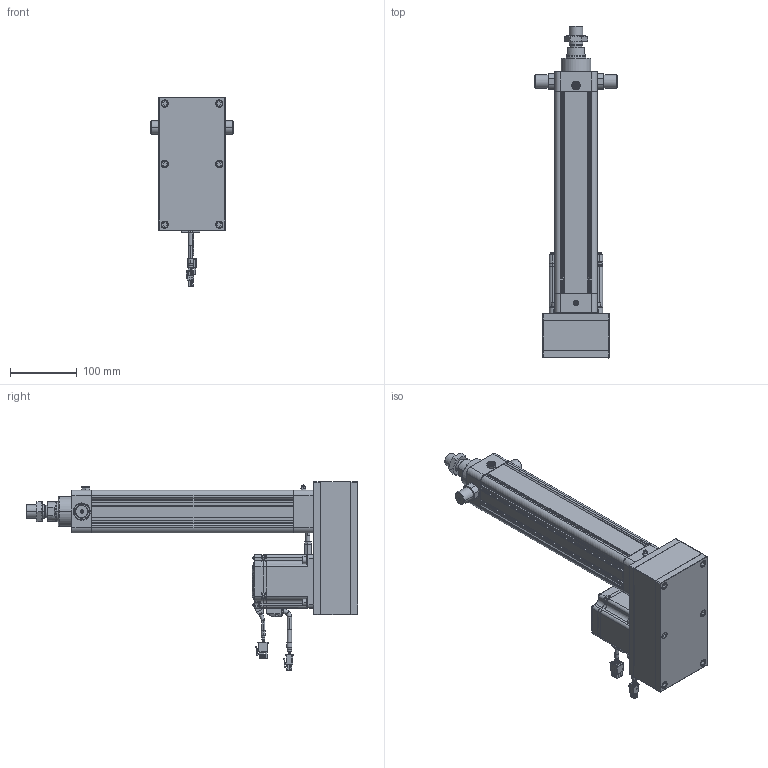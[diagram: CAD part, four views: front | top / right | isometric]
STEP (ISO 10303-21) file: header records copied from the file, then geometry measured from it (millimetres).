
FILE_DESCRIPTION((''),'2;1');
FILE_NAME('HE50-D-100-X1_ASM','2020-05-23T',('ASUS20200'),(''),'CREO PARAMETRIC BY PTC INC, 2014190','CREO PARAMETRIC BY PTC INC, 2014190','');
FILE_SCHEMA(('CONFIG_CONTROL_DESIGN'));
Products named in the file (30): HE50-D-P-001-X1; HE50-D-P-002-X1; HE50-D-P-003-X1; 6301ZZ; LGLM-M8-22; SLM-01; YZ-M6X1; HE50-P-010-X1-400W; _MHMF082L1A2; _CABLE_MOTOR_BOTTOM_05; _CABLE_MOTOR_TOP_05; _MOTOR_CONNECTOR_2; _CABLE_BRAKE_BOTTOM_05; _CABLE_BRAKE_TOP_05; _MHMF_CONNECTOR_9_PIN_A6; MHMF082L1A2M2_1_ASM; TD-6; M6X25; LM-M6X1; JX6X6X20; M6X25-DS; LM-M6-15; HE50-P-012-X1; HE50-P-013-X1; M6X60; HE50-TC; HE50-D-P-005-X1; HE50-D-P-004-X1; HE50-D-P-008-X1; HE50-D-100-X1_ASM
Assembly tree (52 placements, depth 3):
  HE50-D-100-X1_ASM
    HE50-D-P-001-X1
    HE50-D-P-002-X1
    HE50-D-P-003-X1
    6301ZZ
    LGLM-M8-22  x8
    SLM-01
    YZ-M6X1
    HE50-P-010-X1-400W
    MHMF082L1A2M2_1_ASM
      _MHMF082L1A2
      _CABLE_MOTOR_BOTTOM_05
      _CABLE_MOTOR_TOP_05
      _MOTOR_CONNECTOR_2
      _CABLE_BRAKE_BOTTOM_05
      _CABLE_BRAKE_TOP_05
      _MHMF_CONNECTOR_9_PIN_A6
    TD-6  x4
    M6X25  x4
    LM-M6X1  x5
    JX6X6X20
    M6X25-DS
    LM-M6-15
    HE50-P-012-X1
    HE50-P-013-X1
    M6X60  x6
    HE50-TC  x2
    HE50-D-P-005-X1
    HE50-D-P-004-X1
    HE50-D-P-008-X1
Bounding box: 124 x 498.5 x 283.65 mm (x, y, z)
Volume: 1961984.7 mm3; surface area: 535979.6 mm2
Topology: 51 solids, 83 shells, 3067 faces, 7380 edges, 4563 vertices
Faces by surface type: plane 1314, cylinder 831, cone 739, torus 138, sphere 42, bspline 3
Entity records: 74292 total; most frequent: CARTESIAN_POINT 14240, DIRECTION 13111, ORIENTED_EDGE 11840, EDGE_CURVE 5980, AXIS2_PLACEMENT_3D 4879, VERTEX_POINT 3729, VECTOR 3353, LINE 3353
